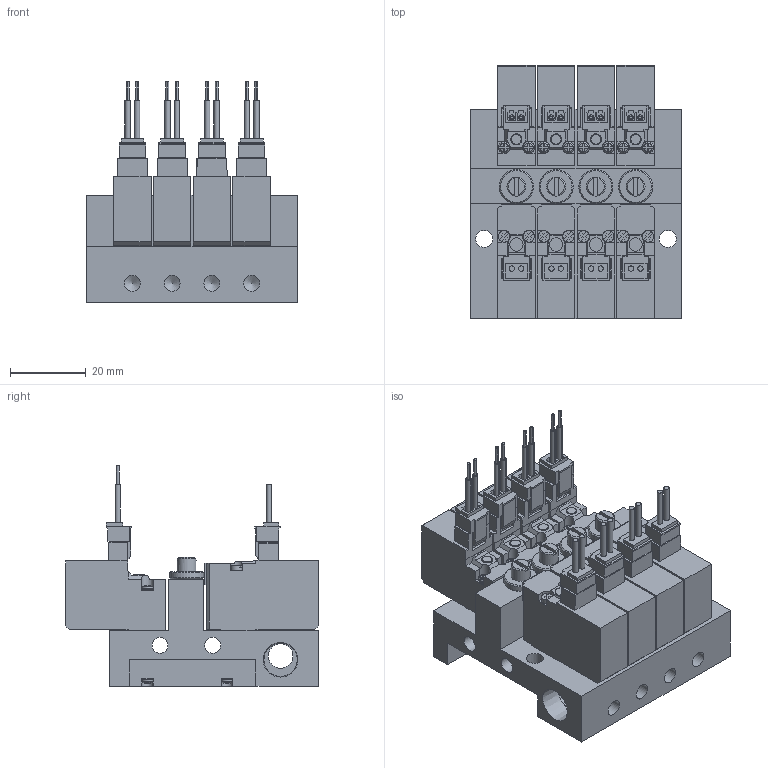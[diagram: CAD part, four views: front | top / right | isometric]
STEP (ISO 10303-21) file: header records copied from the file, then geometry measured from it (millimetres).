
FILE_DESCRIPTION(('STEP AP203'),'1');
FILE_NAME('2-NO(NC)-4EZ-M04.stp','2025-05-09T00:49:16',(' '),(' '),'Spatial InterOp 3D',' ',' ');
FILE_SCHEMA(('CONFIG_CONTROL_DESIGN'));
Length unit declared in the file: millimetre
Products named in the file (46): PV1※2-NO(NC)-4EZ-M04; BODY; PLATE; NEEDLE; BOLT; SOLENOID VALVE VOLTAGE PV; 42; 45; 48; 51; SOLENOID VALVE VOLTAGE PV-NC2
Assembly tree (45 placements, depth 3):
  PV1※2-NO(NC)-4EZ-M04
    BODY
    PLATE
    PLATE
    NEEDLE
    BOLT
    BOLT
    BOLT
    BOLT
    BOLT
    BOLT
    SOLENOID VALVE VOLTAGE PV
      42
      45
      48
      51
    NEEDLE
    SOLENOID VALVE VOLTAGE PV
      42
      45
      48
      51
    NEEDLE
    SOLENOID VALVE VOLTAGE PV
      42
      45
      48
      51
    PLATE
    BOLT
    BOLT
    BOLT
    PLATE
    BOLT
    BOLT
    BOLT
    NEEDLE
    SOLENOID VALVE VOLTAGE PV
      42
      45
      48
      51
    SOLENOID VALVE VOLTAGE PV-NC2
    SOLENOID VALVE VOLTAGE PV-NC2
    SOLENOID VALVE VOLTAGE PV-NC2
    SOLENOID VALVE VOLTAGE PV-NC2
Bounding box: 55.5 x 66.8 x 58.25 mm (x, y, z)
Volume: 86242.8 mm3; surface area: 43935.9 mm2
Topology: 41 solids, 41 shells, 1621 faces, 4514 edges, 3065 vertices
Faces by surface type: plane 1204, cylinder 287, torus 64, bspline 40, cone 26
Full cylindrical faces by diameter (mm): 1.4 x8, 2 x12, 3 x20, 3.5 x4, 4.2 x10, 4.5 x2, 5 x4, 6.5 x1, 8.797 x2, 9 x4
Entity records: 54122 total; most frequent: CARTESIAN_POINT 9831, DIRECTION 8762, ORIENTED_EDGE 8688, EDGE_CURVE 4344, VERTEX_POINT 3008, LINE 2996, VECTOR 2996, AXIS2_PLACEMENT_3D 2883
